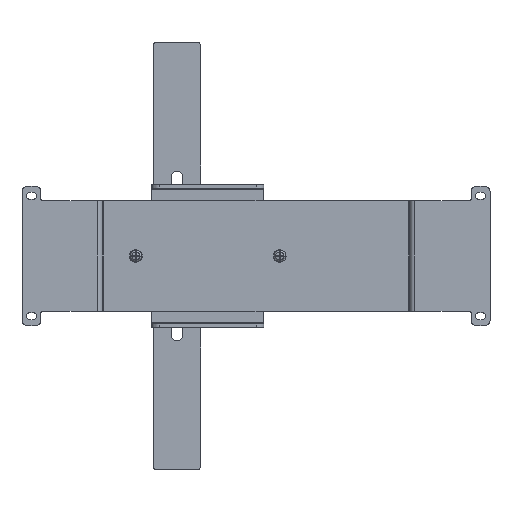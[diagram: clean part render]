
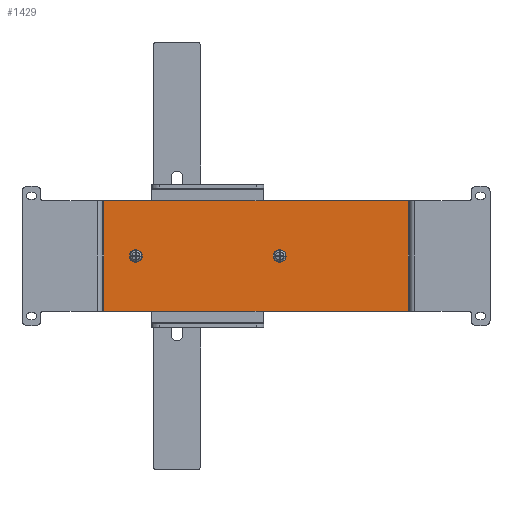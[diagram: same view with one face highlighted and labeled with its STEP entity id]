
A CAD part, front view. The second image highlights one B-rep face of the part: STEP entity #1429.
In plain terms, the highlighted planar face has unit normal (0, -1, 0).
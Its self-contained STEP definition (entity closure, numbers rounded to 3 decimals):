
#316=CARTESIAN_POINT('',(15.,-21.5,0.));
#317=DIRECTION('',(0.,1.,0.));
#318=DIRECTION('',(0.,0.,1.));
#319=AXIS2_PLACEMENT_3D('',#316,#317,#318);
#321=CARTESIAN_POINT('',(15.,-21.5,0.));
#322=DIRECTION('',(0.,1.,0.));
#323=DIRECTION('',(0.,0.,-1.));
#324=AXIS2_PLACEMENT_3D('',#321,#322,#323);
#326=CARTESIAN_POINT('',(-76.,-21.5,0.));
#327=DIRECTION('',(0.,1.,0.));
#328=DIRECTION('',(0.,0.,1.));
#329=AXIS2_PLACEMENT_3D('',#326,#327,#328);
#331=CARTESIAN_POINT('',(-76.,-21.5,0.));
#332=DIRECTION('',(0.,1.,0.));
#333=DIRECTION('',(0.,0.,-1.));
#334=AXIS2_PLACEMENT_3D('',#331,#332,#333);
#336=DIRECTION('',(0.,0.,1.));
#337=VECTOR('',#336,69.6);
#338=CARTESIAN_POINT('',(-96.3,-21.5,-34.8));
#339=LINE('',#338,#337);
#340=DIRECTION('',(1.,0.,0.));
#341=VECTOR('',#340,192.6);
#342=CARTESIAN_POINT('',(-96.3,-21.5,34.8));
#343=LINE('',#342,#341);
#344=DIRECTION('',(0.,0.,1.));
#345=VECTOR('',#344,69.6);
#346=CARTESIAN_POINT('',(96.3,-21.5,-34.8));
#347=LINE('',#346,#345);
#348=DIRECTION('',(1.,0.,0.));
#349=VECTOR('',#348,192.6);
#350=CARTESIAN_POINT('',(-96.3,-21.5,-34.8));
#351=LINE('',#350,#349);
#981=CARTESIAN_POINT('',(15.,-21.5,2.6));
#983=VERTEX_POINT('',#981);
#985=CARTESIAN_POINT('',(15.,-21.5,-2.6));
#987=VERTEX_POINT('',#985);
#989=CARTESIAN_POINT('',(-76.,-21.5,2.6));
#991=VERTEX_POINT('',#989);
#993=CARTESIAN_POINT('',(-76.,-21.5,-2.6));
#995=VERTEX_POINT('',#993);
#1004=CARTESIAN_POINT('',(-96.3,-21.5,-34.8));
#1005=CARTESIAN_POINT('',(-96.3,-21.5,34.8));
#1006=VERTEX_POINT('',#1004);
#1007=VERTEX_POINT('',#1005);
#1016=CARTESIAN_POINT('',(96.3,-21.5,-34.8));
#1017=CARTESIAN_POINT('',(96.3,-21.5,34.8));
#1018=VERTEX_POINT('',#1016);
#1019=VERTEX_POINT('',#1017);
#1405=CARTESIAN_POINT('',(-97.3,-21.5,-80.));
#1406=DIRECTION('',(0.,-1.,0.));
#1407=DIRECTION('',(1.,0.,0.));
#1408=AXIS2_PLACEMENT_3D('',#1405,#1406,#1407);
#1409=PLANE('',#1408);
#1411=ORIENTED_EDGE('',*,*,#1410,.T.);
#1413=ORIENTED_EDGE('',*,*,#1412,.T.);
#1415=ORIENTED_EDGE('',*,*,#1414,.F.);
#1416=ORIENTED_EDGE('',*,*,#1314,.F.);
#1417=EDGE_LOOP('',(#1411,#1413,#1415,#1416));
#1418=FACE_OUTER_BOUND('',#1417,.F.);
#1419=ORIENTED_EDGE('',*,*,#1384,.F.);
#1420=ORIENTED_EDGE('',*,*,#1400,.F.);
#1421=EDGE_LOOP('',(#1419,#1420));
#1422=FACE_BOUND('',#1421,.F.);
#1424=ORIENTED_EDGE('',*,*,#1423,.F.);
#1426=ORIENTED_EDGE('',*,*,#1425,.F.);
#1427=EDGE_LOOP('',(#1424,#1426));
#1428=FACE_BOUND('',#1427,.F.);
#1429=ADVANCED_FACE('',(#1418,#1422,#1428),#1409,.T.);
#320=CIRCLE('',#319,2.6);
#325=CIRCLE('',#324,2.6);
#330=CIRCLE('',#329,2.6);
#335=CIRCLE('',#334,2.6);
#1314=EDGE_CURVE('',#1006,#1018,#351,.T.);
#1384=EDGE_CURVE('',#983,#987,#320,.T.);
#1400=EDGE_CURVE('',#987,#983,#325,.T.);
#1410=EDGE_CURVE('',#1006,#1007,#339,.T.);
#1412=EDGE_CURVE('',#1007,#1019,#343,.T.);
#1414=EDGE_CURVE('',#1018,#1019,#347,.T.);
#1423=EDGE_CURVE('',#991,#995,#330,.T.);
#1425=EDGE_CURVE('',#995,#991,#335,.T.);
